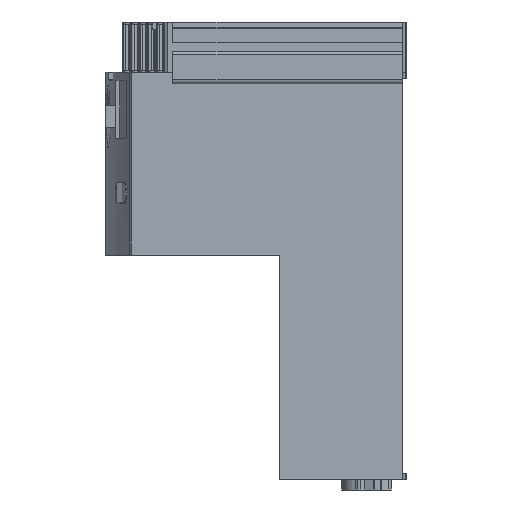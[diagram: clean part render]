
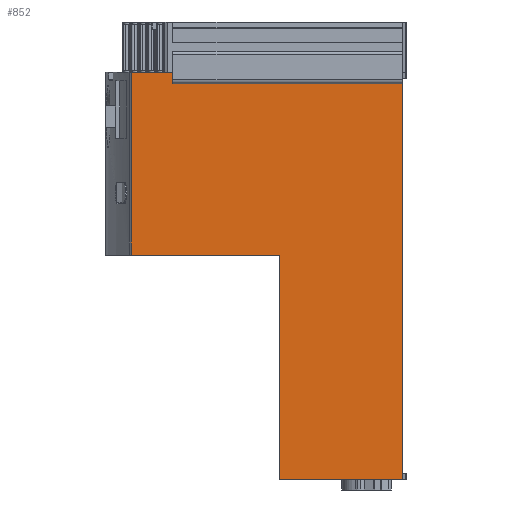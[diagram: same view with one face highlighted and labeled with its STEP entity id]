
A CAD part, left-side view. The second image highlights one B-rep face of the part: STEP entity #852.
In plain terms, the highlighted planar face has unit normal (-1, 0, 0).
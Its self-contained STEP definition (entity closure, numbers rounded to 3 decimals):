
#852 = ADVANCED_FACE( '', ( #2184 ), #2185, .F. );
#2184 = FACE_OUTER_BOUND( '', #4019, .T. );
#2185 = PLANE( '', #4020 );
#4019 = EDGE_LOOP( '', ( #6552, #6553, #6554, #6555, #6556, #6557, #6558, #6559, #6560 ) );
#4020 = AXIS2_PLACEMENT_3D( '', #6561, #6562, #6563 );
#6552 = ORIENTED_EDGE( '', *, *, #11804, .F. );
#6553 = ORIENTED_EDGE( '', *, *, #11805, .T. );
#6554 = ORIENTED_EDGE( '', *, *, #11806, .F. );
#6555 = ORIENTED_EDGE( '', *, *, #11807, .F. );
#6556 = ORIENTED_EDGE( '', *, *, #11808, .T. );
#6557 = ORIENTED_EDGE( '', *, *, #11809, .T. );
#6558 = ORIENTED_EDGE( '', *, *, #11810, .T. );
#6559 = ORIENTED_EDGE( '', *, *, #11811, .T. );
#6560 = ORIENTED_EDGE( '', *, *, #11812, .F. );
#6561 = CARTESIAN_POINT( '', ( -33., 23., 56.15 ) );
#6562 = DIRECTION( '', ( 1., 0., 0. ) );
#6563 = DIRECTION( '', ( 0., 0., -1. ) );
#11804 = EDGE_CURVE( '', #14538, #14539, #14540, .T. );
#11805 = EDGE_CURVE( '', #14538, #14541, #14542, .T. );
#11806 = EDGE_CURVE( '', #14543, #14541, #14544, .T. );
#11807 = EDGE_CURVE( '', #14545, #14543, #14546, .T. );
#11808 = EDGE_CURVE( '', #14545, #14547, #14548, .T. );
#11809 = EDGE_CURVE( '', #14547, #14549, #14550, .T. );
#11810 = EDGE_CURVE( '', #14549, #14551, #14552, .T. );
#11811 = EDGE_CURVE( '', #14551, #14553, #14554, .T. );
#11812 = EDGE_CURVE( '', #14539, #14553, #14555, .T. );
#14538 = VERTEX_POINT( '', #18311 );
#14539 = VERTEX_POINT( '', #18312 );
#14540 = LINE( '', #18313, #18314 );
#14541 = VERTEX_POINT( '', #18315 );
#14542 = LINE( '', #18316, #18317 );
#14543 = VERTEX_POINT( '', #18318 );
#14544 = LINE( '', #18319, #18320 );
#14545 = VERTEX_POINT( '', #18321 );
#14546 = LINE( '', #18322, #18323 );
#14547 = VERTEX_POINT( '', #18324 );
#14548 = LINE( '', #18325, #18326 );
#14549 = VERTEX_POINT( '', #18327 );
#14550 = LINE( '', #18328, #18329 );
#14551 = VERTEX_POINT( '', #18330 );
#14552 = LINE( '', #18331, #18332 );
#14553 = VERTEX_POINT( '', #18333 );
#14554 = LINE( '', #18334, #18335 );
#14555 = LINE( '', #18336, #18337 );
#18311 = CARTESIAN_POINT( '', ( -33., 45.6, 98.25 ) );
#18312 = CARTESIAN_POINT( '', ( -33., -6.4, 98.25 ) );
#18313 = CARTESIAN_POINT( '', ( -33., 23., 98.25 ) );
#18314 = VECTOR( '', #22194, 1000. );
#18315 = CARTESIAN_POINT( '', ( -33., 45.6, 99.85 ) );
#18316 = CARTESIAN_POINT( '', ( -33., 45.6, 56.15 ) );
#18317 = VECTOR( '', #22195, 1000. );
#18318 = CARTESIAN_POINT( '', ( -33., 48.4, 99.85 ) );
#18319 = CARTESIAN_POINT( '', ( -33., 23., 99.85 ) );
#18320 = VECTOR( '', #22196, 1000. );
#18321 = CARTESIAN_POINT( '', ( -33., 58.4, 99.85 ) );
#18322 = CARTESIAN_POINT( '', ( -33., 58.4, 99.85 ) );
#18323 = VECTOR( '', #22197, 1000. );
#18324 = CARTESIAN_POINT( '', ( -33., 58.4, 56.15 ) );
#18325 = CARTESIAN_POINT( '', ( -33., 58.4, 99.85 ) );
#18326 = VECTOR( '', #22198, 1000. );
#18327 = CARTESIAN_POINT( '', ( -33., 23., 56.15 ) );
#18328 = CARTESIAN_POINT( '', ( -33., 58.4, 56.15 ) );
#18329 = VECTOR( '', #22199, 1000. );
#18330 = CARTESIAN_POINT( '', ( -33., 23., 2.5 ) );
#18331 = CARTESIAN_POINT( '', ( -33., 23., 56.15 ) );
#18332 = VECTOR( '', #22200, 1000. );
#18333 = CARTESIAN_POINT( '', ( -33., -6.4, 2.5 ) );
#18334 = CARTESIAN_POINT( '', ( -33., 23., 2.5 ) );
#18335 = VECTOR( '', #22201, 1000. );
#18336 = CARTESIAN_POINT( '', ( -33., -6.4, 56.15 ) );
#18337 = VECTOR( '', #22202, 1000. );
#22194 = DIRECTION( '', ( 0., -1., 0. ) );
#22195 = DIRECTION( '', ( 0., 0., 1. ) );
#22196 = DIRECTION( '', ( 0., -1., 0. ) );
#22197 = DIRECTION( '', ( 0., -1., 0. ) );
#22198 = DIRECTION( '', ( 0., 0., -1. ) );
#22199 = DIRECTION( '', ( 0., -1., 0. ) );
#22200 = DIRECTION( '', ( 0., 0., -1. ) );
#22201 = DIRECTION( '', ( 0., -1., 0. ) );
#22202 = DIRECTION( '', ( 0., 0., -1. ) );
